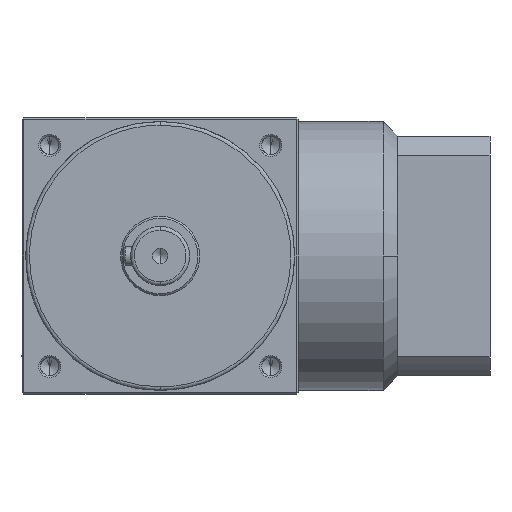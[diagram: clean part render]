
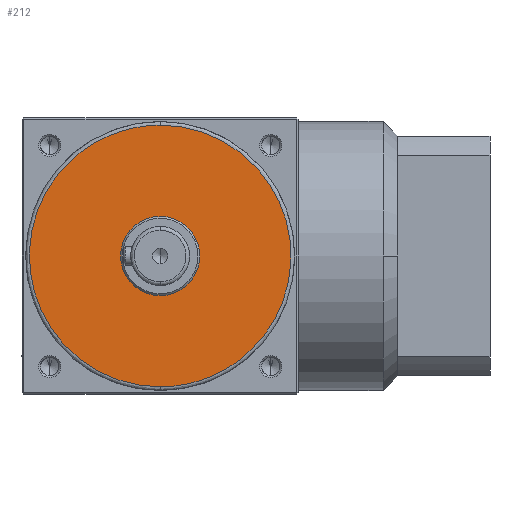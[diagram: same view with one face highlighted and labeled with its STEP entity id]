
A CAD part, left-side view. The second image highlights one B-rep face of the part: STEP entity #212.
In plain terms, the highlighted planar face has unit normal (-1, 0, 0).
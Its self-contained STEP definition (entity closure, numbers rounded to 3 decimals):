
#112 = DIRECTION ( 'NONE',  ( 0., 0., 1. ) ) ;
#147 = DIRECTION ( 'NONE',  ( 1., 0., 0. ) ) ;
#212 = ADVANCED_FACE ( 'NONE', ( #9806, #7900 ), #4624, .T. ) ;
#266 = CARTESIAN_POINT ( 'NONE',  ( -52., 0., -35.5 ) ) ;
#343 = EDGE_CURVE ( 'NONE', #2152, #4197, #488, .T. ) ;
#433 = ORIENTED_EDGE ( 'NONE', *, *, #2047, .F. ) ;
#488 = CIRCLE ( 'NONE', #3912, 10.75 ) ;
#598 = EDGE_CURVE ( 'NONE', #3233, #1142, #650, .T. ) ;
#650 =( BOUNDED_CURVE ( )  B_SPLINE_CURVE ( 3, ( #1695, #8586, #6317, #266 ),
 .UNSPECIFIED., .F., .T. ) 
 B_SPLINE_CURVE_WITH_KNOTS ( ( 4, 4 ),
 ( 0., 1. ),
 .UNSPECIFIED. ) 
 CURVE ( )  GEOMETRIC_REPRESENTATION_ITEM ( )  RATIONAL_B_SPLINE_CURVE ( ( 1., 0.333, 0.333, 1. ) ) 
 REPRESENTATION_ITEM ( '' )  );
#764 = CARTESIAN_POINT ( 'NONE',  ( -52., 0., 35.5 ) ) ;
#909 = DIRECTION ( 'NONE',  ( 0., 0., -1. ) ) ;
#1142 = VERTEX_POINT ( 'NONE', #6376 ) ;
#1695 = CARTESIAN_POINT ( 'NONE',  ( -52., 0., 35.5 ) ) ;
#1893 = CARTESIAN_POINT ( 'NONE',  ( -52., 0., 0. ) ) ;
#2013 = CARTESIAN_POINT ( 'NONE',  ( -52., 0., 35.5 ) ) ;
#2047 = EDGE_CURVE ( 'NONE', #1142, #3233, #2303, .T. ) ;
#2152 = VERTEX_POINT ( 'NONE', #4473 ) ;
#2303 =( BOUNDED_CURVE ( )  B_SPLINE_CURVE ( 3, ( #5815, #6597, #6637, #764 ),
 .UNSPECIFIED., .F., .F. ) 
 B_SPLINE_CURVE_WITH_KNOTS ( ( 4, 4 ),
 ( 0., 1. ),
 .UNSPECIFIED. ) 
 CURVE ( )  GEOMETRIC_REPRESENTATION_ITEM ( )  RATIONAL_B_SPLINE_CURVE ( ( 1., 0.333, 0.333, 1. ) ) 
 REPRESENTATION_ITEM ( '' )  );
#2405 = CARTESIAN_POINT ( 'NONE',  ( -52., 0., -10.75 ) ) ;
#2485 = ORIENTED_EDGE ( 'NONE', *, *, #7725, .T. ) ;
#2802 = EDGE_LOOP ( 'NONE', ( #2485, #2892 ) ) ;
#2892 = ORIENTED_EDGE ( 'NONE', *, *, #343, .T. ) ;
#3233 = VERTEX_POINT ( 'NONE', #2013 ) ;
#3859 = ORIENTED_EDGE ( 'NONE', *, *, #598, .F. ) ;
#3912 = AXIS2_PLACEMENT_3D ( 'NONE', #1893, #147, #909 ) ;
#3997 = EDGE_LOOP ( 'NONE', ( #433, #3859 ) ) ;
#4197 = VERTEX_POINT ( 'NONE', #2405 ) ;
#4221 = DIRECTION ( 'NONE',  ( 0., 0., -1. ) ) ;
#4284 = DIRECTION ( 'NONE',  ( 1., 0., 0. ) ) ;
#4473 = CARTESIAN_POINT ( 'NONE',  ( -52., 0., 10.75 ) ) ;
#4624 = PLANE ( 'NONE',  #5301 ) ;
#4954 = CARTESIAN_POINT ( 'NONE',  ( -52., 0., 0. ) ) ;
#5301 = AXIS2_PLACEMENT_3D ( 'NONE', #5388, #9869, #112 ) ;
#5388 = CARTESIAN_POINT ( 'NONE',  ( -52., 0., 0. ) ) ;
#5815 = CARTESIAN_POINT ( 'NONE',  ( -52., 0., -35.5 ) ) ;
#5907 = CIRCLE ( 'NONE', #7797, 10.75 ) ;
#6317 = CARTESIAN_POINT ( 'NONE',  ( -52., -71., -35.5 ) ) ;
#6376 = CARTESIAN_POINT ( 'NONE',  ( -52., 0., -35.5 ) ) ;
#6597 = CARTESIAN_POINT ( 'NONE',  ( -52., 71., -35.5 ) ) ;
#6637 = CARTESIAN_POINT ( 'NONE',  ( -52., 71., 35.5 ) ) ;
#7725 = EDGE_CURVE ( 'NONE', #4197, #2152, #5907, .T. ) ;
#7797 = AXIS2_PLACEMENT_3D ( 'NONE', #4954, #4284, #4221 ) ;
#7900 = FACE_OUTER_BOUND ( 'NONE', #3997, .T. ) ;
#8586 = CARTESIAN_POINT ( 'NONE',  ( -52., -71., 35.5 ) ) ;
#9806 = FACE_BOUND ( 'NONE', #2802, .T. ) ;
#9869 = DIRECTION ( 'NONE',  ( -1., 0., 0. ) ) ;
